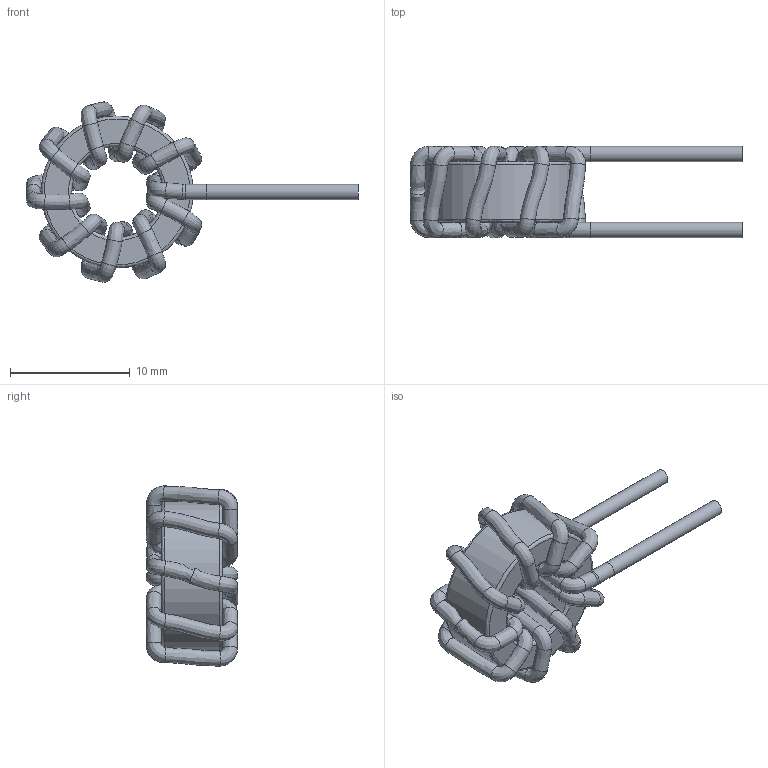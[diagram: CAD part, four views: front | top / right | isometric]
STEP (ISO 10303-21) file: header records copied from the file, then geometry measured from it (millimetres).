
FILE_DESCRIPTION (( 'STEP AP214' ), '1' );
FILE_NAME ('HF127-5R6M-10AV REV B.STEP', '2019-08-07T21:50:21', ( '' ), ( '' ), 'SwSTEP 2.0', 'SolidWorks 2015', '' );
FILE_SCHEMA (( 'AUTOMOTIVE_DESIGN' ));
Length unit declared in the file: inch
Products named in the file (2): HF127-5R6M-10AV REV B
Bounding box: 27.75 x 7.62 x 15.07 mm (x, y, z)
Volume: 677 mm3; surface area: 1323.9 mm2
Topology: 4 solids, 4 shells, 98 faces, 249 edges, 159 vertices
Faces by surface type: bspline 82, cylinder 8, plane 8
Full cylindrical faces by diameter (mm): 1.27 x6, 7.62 x1, 12.7 x1
Entity records: 8081 total; most frequent: CARTESIAN_POINT 5414, DIRECTION 218, ORIENTED_EDGE 190, EDGE_LOOP 190, FACE_OUTER_BOUND 188, AXIS2_PLACEMENT_3D 109, DIMENSIONAL_EXPONENTS 104, UNCERTAINTY_MEASURE_WITH_UNIT 104
